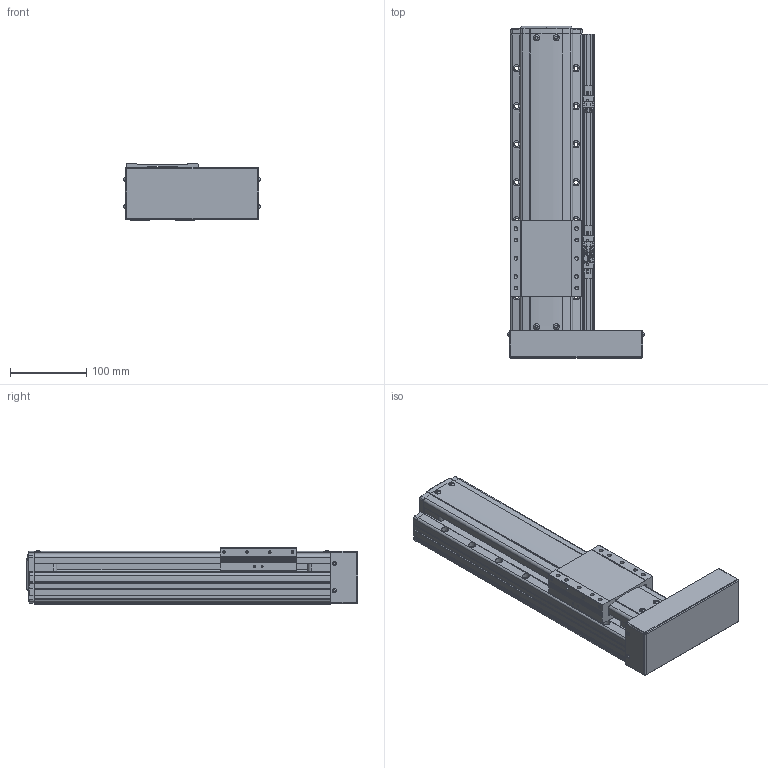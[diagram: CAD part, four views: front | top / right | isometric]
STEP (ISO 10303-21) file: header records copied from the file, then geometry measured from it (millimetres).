
FILE_DESCRIPTION(('STEP AP214'),'1');
FILE_NAME('Z:/Web/3D/PSA95/STP/PSA95-200 (3D)/PSA95ㅁㅁ-200PR+3SR.stp','2014-07-02T23:53:49',(' '),(' '),'Spatial InterOp 3D',' ',' ');
FILE_SCHEMA(('automotive_design'));
Length unit declared in the file: millimetre
Products named in the file (41): BASE; RRCV; 스크루 : Round - M4.0 x 10.0; 너트 : Square - M10.0 x 220.7419; RR1500; FRCV-090; 스크루 : Round - M4.0 x 6.0; SLBL-PA90; MOTOR PLATE COVER; 스크루 : Round - M3.0 x 6.0; EE-SX674; SBK-SX674-352; M3.0 x 6.0; SRL-16x17-380L; SGD-PA95; 스크루 : Round - M3.0 x 8.0
Bounding box: 179.13 x 436.5 x 74 mm (x, y, z)
Volume: 2685726.6 mm3; surface area: 355444 mm2
Topology: 41 solids, 41 shells, 2340 faces, 6234 edges, 4012 vertices
Faces by surface type: plane 1400, cylinder 639, cone 201, sphere 62, bspline 24, torus 14
Entity records: 93908 total; most frequent: CARTESIAN_POINT 15562, DIRECTION 12392, ORIENTED_EDGE 12236, EDGE_CURVE 6118, LINE 4240, VECTOR 4240, AXIS2_PLACEMENT_3D 4076, VERTEX_POINT 4012
